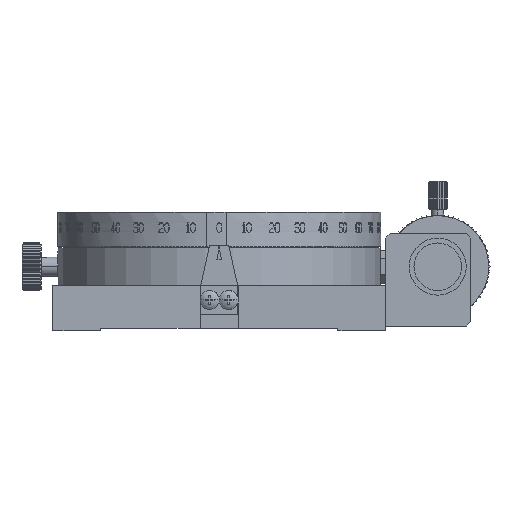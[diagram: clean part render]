
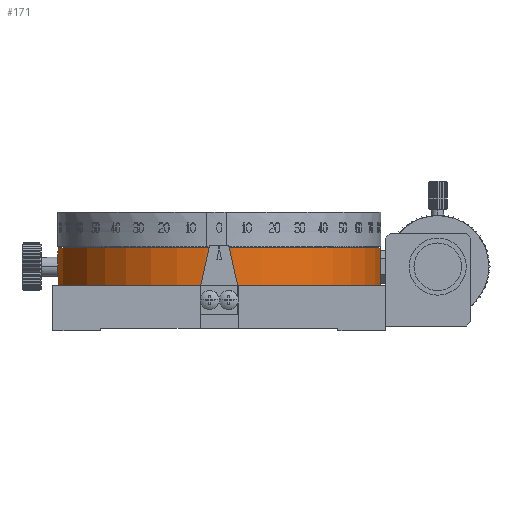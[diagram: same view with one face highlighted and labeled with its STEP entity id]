
A CAD part, front view. The second image highlights one B-rep face of the part: STEP entity #171.
In plain terms, the highlighted cylindrical face has radius 34 mm (diameter 68 mm), a partial arc.
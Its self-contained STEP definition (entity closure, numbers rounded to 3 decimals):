
#171=ADVANCED_FACE('',(#5268,#5269),#5267,.T.);
#5267=CYLINDRICAL_SURFACE('',#51442,34.);
#5268=FACE_OUTER_BOUND('',#51443,.T.);
#5269=FACE_BOUND('',#51444,.T.);
#51439=CARTESIAN_POINT('',(0.,0.,20.308));
#51440=DIRECTION('',(0.,0.,-1.));
#51441=DIRECTION('',(1.,0.,0.));
#51442=AXIS2_PLACEMENT_3D('',#51439,#51440,#51441);
#51443=EDGE_LOOP('',(#75944,#75945,#75946,#75947));
#51444=EDGE_LOOP('',(#75948,#75949));
#75944=ORIENTED_EDGE('',*,*,#102523,.F.);
#75945=ORIENTED_EDGE('',*,*,#102528,.F.);
#75946=ORIENTED_EDGE('',*,*,#102530,.T.);
#75947=ORIENTED_EDGE('',*,*,#102531,.T.);
#75948=ORIENTED_EDGE('',*,*,#102532,.F.);
#75949=ORIENTED_EDGE('',*,*,#102533,.F.);
#102523=EDGE_CURVE('',#117260,#117267,#117268,.T.);
#102528=EDGE_CURVE('',#117294,#117260,#117302,.T.);
#102530=EDGE_CURVE('',#117294,#117314,#117315,.T.);
#102531=EDGE_CURVE('',#117314,#117267,#117321,.T.);
#102532=EDGE_CURVE('',#117327,#117328,#117329,.T.);
#102533=EDGE_CURVE('',#117328,#117327,#117335,.T.);
#117260=VERTEX_POINT('',#208052);
#117267=VERTEX_POINT('',#208056);
#117268=CIRCLE('',#208060,34.);
#117294=VERTEX_POINT('',#208074);
#117302=LINE('',#208079,#208080);
#117314=VERTEX_POINT('',#208085);
#117315=CIRCLE('',#208089,34.);
#117321=LINE('',#208090,#208091);
#117327=VERTEX_POINT('',#208093);
#117328=VERTEX_POINT('',#208094);
#117329=(BOUNDED_CURVE() B_SPLINE_CURVE(3,(#208095,#208096,#208097,#208098,#208099,#208100,#208101,#208102,#208103,#208104,#208105,#208106,#208107,#208108,#208109,#208110,#208111,#208112,#208113,#208114,#208115,#208116,#208117,#208118,#208119,#208120,#208121,#208122),.UNSPECIFIED.,.F.,.F.) B_SPLINE_CURVE_WITH_KNOTS((4,2,2,2,2,2,2,2,2,2,2,2,2,4),(0.006,0.007,0.008,0.008,0.009,0.009,0.009,0.01,0.01,0.011,0.011,0.011,0.012,0.013),.UNSPECIFIED.) CURVE() GEOMETRIC_REPRESENTATION_ITEM() RATIONAL_B_SPLINE_CURVE((1.,1.,1.,1.,1.,1.,1.,1.,1.,1.,1.,1.,1.,1.,1.,1.,1.,1.,1.,1.,1.,1.,1.,1.,1.,1.,1.,1.)) REPRESENTATION_ITEM('') );
#117335=(BOUNDED_CURVE() B_SPLINE_CURVE(3,(#208123,#208124,#208125,#208126,#208127,#208128,#208129,#208130,#208131,#208132,#208133,#208134,#208135,#208136,#208137,#208138,#208139,#208140,#208141,#208142,#208143,#208144,#208145,#208146,#208147,#208148,#208149,#208150,#208151,#208152),.UNSPECIFIED.,.F.,.F.) B_SPLINE_CURVE_WITH_KNOTS((4,2,2,2,2,2,2,2,2,2,2,2,2,2,4),(0.,0.,0.001,0.001,0.002,0.002,0.003,0.004,0.004,0.004,0.005,0.005,0.005,0.006,0.006),.UNSPECIFIED.) CURVE() GEOMETRIC_REPRESENTATION_ITEM() RATIONAL_B_SPLINE_CURVE((1.,1.,1.,1.,1.,1.,1.,1.,1.,1.,1.,1.,1.,1.,1.,1.,1.,1.,1.,1.,1.,1.,1.,1.,1.,1.,1.,1.,1.,1.)) REPRESENTATION_ITEM('') );
#208052=CARTESIAN_POINT('',(33.863,3.05,17.5));
#208056=CARTESIAN_POINT('',(33.863,-3.05,17.5));
#208057=CARTESIAN_POINT('',(0.,0.,17.5));
#208058=DIRECTION('',(0.,0.,1.));
#208059=DIRECTION('',(0.996,-0.09,0.));
#208060=AXIS2_PLACEMENT_3D('',#208057,#208058,#208059);
#208074=CARTESIAN_POINT('',(33.863,3.05,9.5));
#208079=CARTESIAN_POINT('',(33.863,3.05,9.5));
#208080=VECTOR('',#208081,8.);
#208081=DIRECTION('',(0.,0.,1.));
#208085=CARTESIAN_POINT('',(33.863,-3.05,9.5));
#208086=CARTESIAN_POINT('',(0.,0.,9.5));
#208087=DIRECTION('',(0.,0.,1.));
#208088=DIRECTION('',(0.996,0.09,0.));
#208089=AXIS2_PLACEMENT_3D('',#208086,#208087,#208088);
#208090=CARTESIAN_POINT('',(33.863,-3.05,9.5));
#208091=VECTOR('',#208092,8.);
#208092=DIRECTION('',(0.,0.,1.));
#208093=CARTESIAN_POINT('',(-33.941,-2.,13.5));
#208094=CARTESIAN_POINT('',(-33.941,2.,13.5));
#208095=CARTESIAN_POINT('',(-33.941,-2.,13.5));
#208096=CARTESIAN_POINT('',(-33.941,-2.,13.76));
#208097=CARTESIAN_POINT('',(-33.944,-1.948,14.024));
#208098=CARTESIAN_POINT('',(-33.955,-1.749,14.505));
#208099=CARTESIAN_POINT('',(-33.963,-1.6,14.728));
#208100=CARTESIAN_POINT('',(-33.974,-1.323,15.005));
#208101=CARTESIAN_POINT('',(-33.978,-1.221,15.09));
#208102=CARTESIAN_POINT('',(-33.985,-1.003,15.235));
#208103=CARTESIAN_POINT('',(-33.989,-0.889,15.297));
#208104=CARTESIAN_POINT('',(-33.994,-0.647,15.397));
#208105=CARTESIAN_POINT('',(-33.996,-0.519,15.436));
#208106=CARTESIAN_POINT('',(-33.999,-0.264,15.487));
#208107=CARTESIAN_POINT('',(-34.,-0.134,15.5));
#208108=CARTESIAN_POINT('',(-34.,0.13,15.5));
#208109=CARTESIAN_POINT('',(-33.999,0.26,15.487));
#208110=CARTESIAN_POINT('',(-33.996,0.516,15.437));
#208111=CARTESIAN_POINT('',(-33.994,0.643,15.398));
#208112=CARTESIAN_POINT('',(-33.989,0.885,15.298));
#208113=CARTESIAN_POINT('',(-33.985,1.,15.237));
#208114=CARTESIAN_POINT('',(-33.978,1.218,15.092));
#208115=CARTESIAN_POINT('',(-33.974,1.321,15.008));
#208116=CARTESIAN_POINT('',(-33.967,1.505,14.823));
#208117=CARTESIAN_POINT('',(-33.963,1.588,14.723));
#208118=CARTESIAN_POINT('',(-33.956,1.735,14.504));
#208119=CARTESIAN_POINT('',(-33.953,1.797,14.388));
#208120=CARTESIAN_POINT('',(-33.944,1.947,14.027));
#208121=CARTESIAN_POINT('',(-33.941,2.,13.764));
#208122=CARTESIAN_POINT('',(-33.941,2.,13.5));
#208123=CARTESIAN_POINT('',(-33.941,2.,13.5));
#208124=CARTESIAN_POINT('',(-33.941,2.,13.368));
#208125=CARTESIAN_POINT('',(-33.942,1.987,13.238));
#208126=CARTESIAN_POINT('',(-33.945,1.936,12.982));
#208127=CARTESIAN_POINT('',(-33.947,1.898,12.855));
#208128=CARTESIAN_POINT('',(-33.952,1.797,12.613));
#208129=CARTESIAN_POINT('',(-33.956,1.736,12.498));
#208130=CARTESIAN_POINT('',(-33.963,1.591,12.281));
#208131=CARTESIAN_POINT('',(-33.967,1.506,12.178));
#208132=CARTESIAN_POINT('',(-33.978,1.23,11.901));
#208133=CARTESIAN_POINT('',(-33.986,1.007,11.752));
#208134=CARTESIAN_POINT('',(-33.997,0.525,11.553));
#208135=CARTESIAN_POINT('',(-34.,0.262,11.5));
#208136=CARTESIAN_POINT('',(-34.,-0.129,11.5));
#208137=CARTESIAN_POINT('',(-33.999,-0.262,11.513));
#208138=CARTESIAN_POINT('',(-33.996,-0.518,11.564));
#208139=CARTESIAN_POINT('',(-33.994,-0.643,11.602));
#208140=CARTESIAN_POINT('',(-33.989,-0.885,11.702));
#208141=CARTESIAN_POINT('',(-33.985,-1.002,11.764));
#208142=CARTESIAN_POINT('',(-33.978,-1.219,11.909));
#208143=CARTESIAN_POINT('',(-33.974,-1.32,11.992));
#208144=CARTESIAN_POINT('',(-33.967,-1.507,12.178));
#208145=CARTESIAN_POINT('',(-33.963,-1.59,12.28));
#208146=CARTESIAN_POINT('',(-33.956,-1.735,12.496));
#208147=CARTESIAN_POINT('',(-33.952,-1.797,12.613));
#208148=CARTESIAN_POINT('',(-33.947,-1.898,12.855));
#208149=CARTESIAN_POINT('',(-33.945,-1.936,12.98));
#208150=CARTESIAN_POINT('',(-33.942,-1.987,13.236));
#208151=CARTESIAN_POINT('',(-33.941,-2.,13.369));
#208152=CARTESIAN_POINT('',(-33.941,-2.,13.5));
